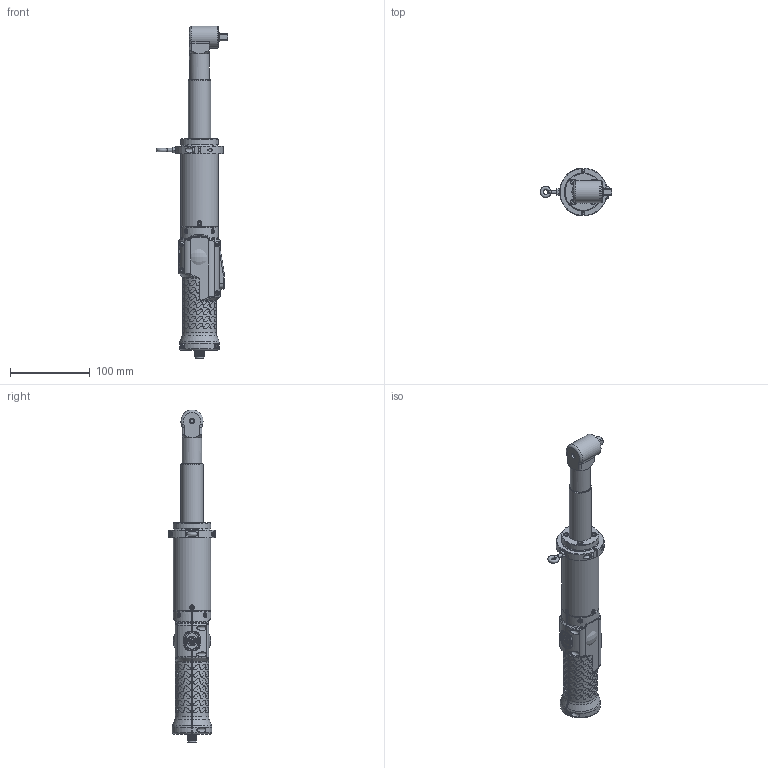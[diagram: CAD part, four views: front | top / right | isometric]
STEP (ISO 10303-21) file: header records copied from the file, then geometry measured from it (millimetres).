
FILE_DESCRIPTION (( 'STEP AP214' ), '1' );
FILE_NAME ('133222-ANG PLUTO20DANG AVV START REVERSE PLASTICA.STEP', '2026-04-20T08:07:13', ( '' ), ( '' ), 'SwSTEP 2.0', 'SolidWorks 2024', '' );
FILE_SCHEMA (( 'AUTOMOTIVE_DESIGN' ));
Length unit declared in the file: millimetre
Products named in the file (1): 133222-ANG   PLUTO20DANG AVV START REVERSE PLASTICA
Bounding box: 90.3 x 59.92 x 416.6 mm (x, y, z)
Surface area: 77742.4 mm2 (no closed solid volume)
Topology: 0 solids, 62 shells, 967 faces, 2866 edges, 1917 vertices
Faces by surface type: bspline 326, cylinder 291, plane 237, cone 58, torus 51, sphere 4
Full cylindrical faces by diameter (mm): 1 x4, 1.4 x2, 3 x4, 4 x1, 5.5 x10, 6 x6, 6.5 x1, 6.6 x1, 7 x5, 8.3 x1, 9.4 x1, 9.6 x1, 11.8 x1, 12 x1, 16 x2, 24 x1, 24.1 x1, 25 x9, 25.2 x1, 28 x2, 47 x2
Entity records: 89247 total; most frequent: CARTESIAN_POINT 57533, ORIENTED_EDGE 4450, DIRECTION 3298, EDGE_CURVE 2679, VERTEX_POINT 1855, AXIS2_PLACEMENT_3D 1307, B_SPLINE_CURVE_WITH_KNOTS 1264, EDGE_LOOP 1179
